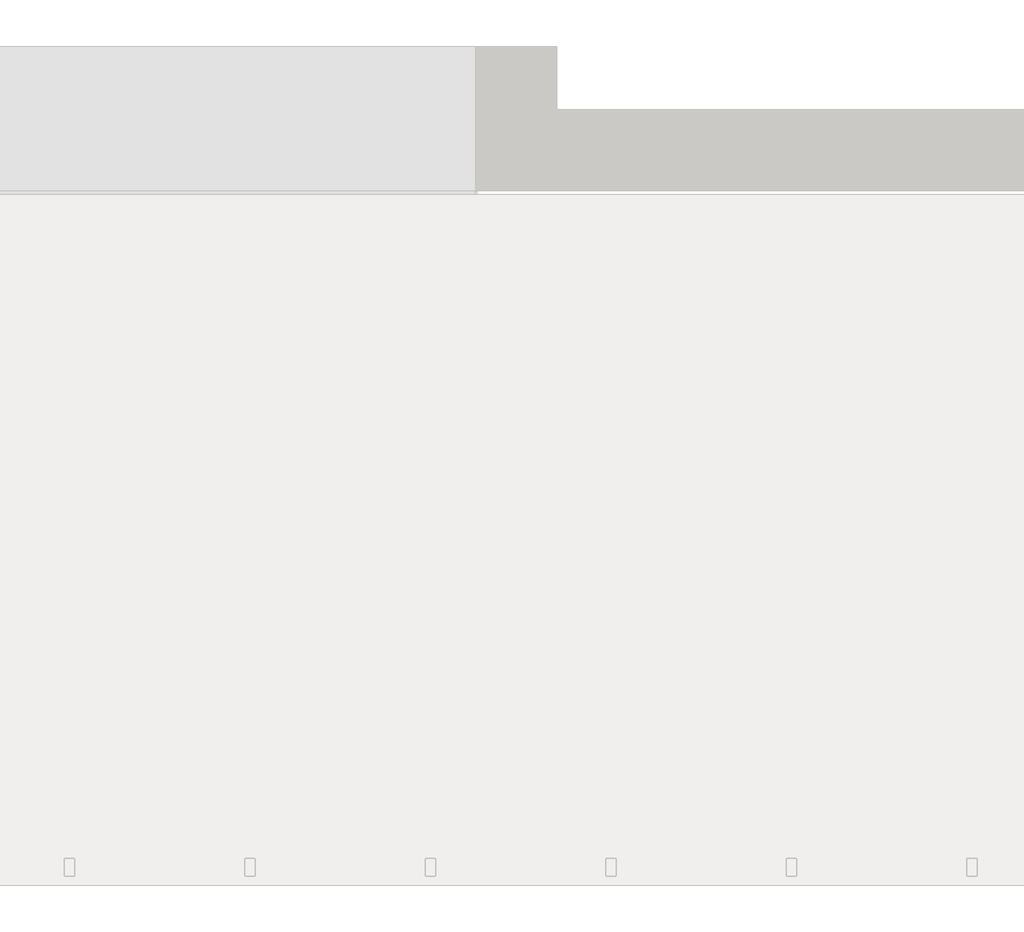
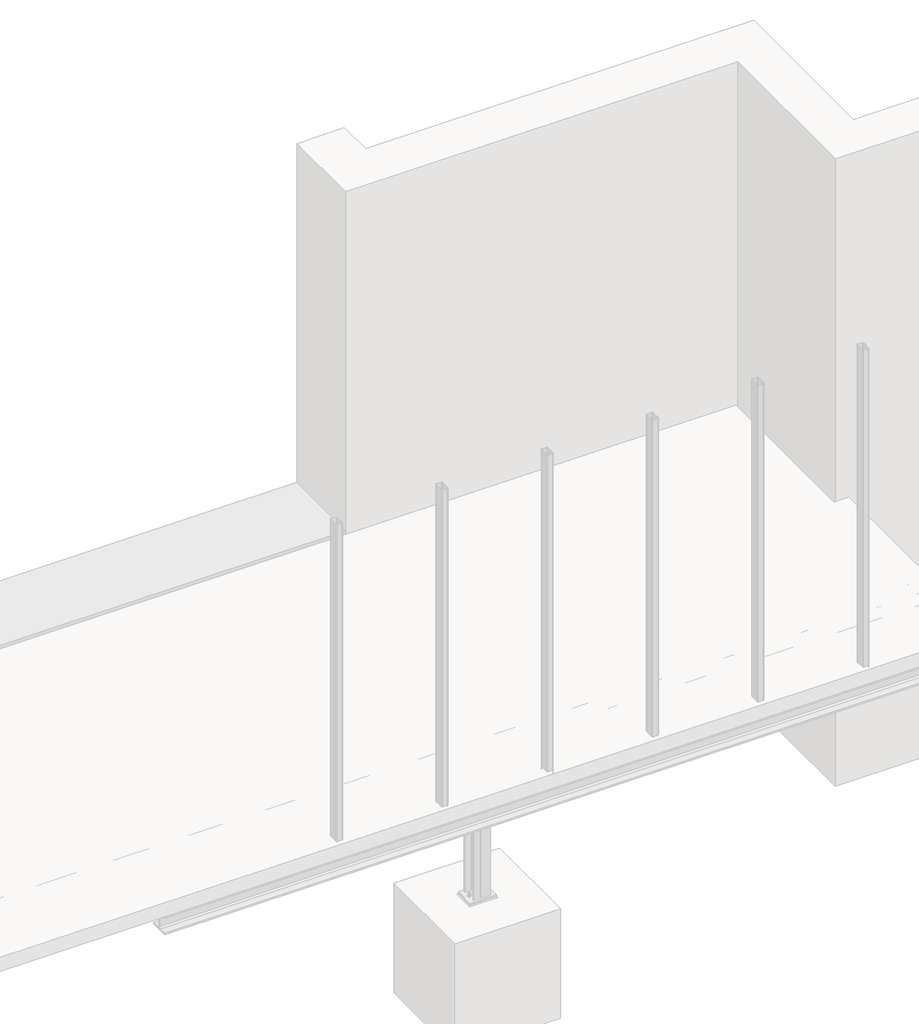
# One storey, part 31 of 36: 3 assemblies.
"""IFC4 building model written with IfcOpenShell, lengths in millimetres."""

import ifcopenshell
import ifcopenshell.guid

model = None  # the IFC model being written
_history = None  # IfcOwnerHistory: only IFC2X3 demands one
_inside = {}  # id of a spatial element -> (the spatial element, [elements in it])
_under = {}  # id of a project, library or spatial element -> (it, [spatial elements below it])
_declared = {}  # id of a project -> (the project, [libraries it declares])
_typed = {}  # id of a type object -> (the type object, [elements of that type])
_made_of = {}  # id of a material, layer set ... -> (it, [elements and type objects made of it])


def new_model(schema):
    """Start an empty IFC model of exactly this schema.

    Asked for "IFC4X3", IfcOpenShell would pick the latest addendum, in which some entities
    have other attributes; the version numbers below select the first issue.
    IFC2X3 requires an IfcOwnerHistory on every rooted entity: one is made here for all.
    """
    global model, _history
    if schema == "IFC4X3":
        model = ifcopenshell.file(schema_version=(4, 3, 0, 0))
    else:
        model = ifcopenshell.file(schema=schema)
    _inside.clear()
    _under.clear()
    _declared.clear()
    _typed.clear()
    _made_of.clear()
    _history = None
    if model.schema == "IFC2X3":
        org = make("IfcOrganization", Name="unknown")
        user = make(
            "IfcPersonAndOrganization",
            ThePerson=make("IfcPerson", FamilyName="unknown"),
            TheOrganization=org,
        )
        app = make(
            "IfcApplication",
            ApplicationDeveloper=org,
            Version="unknown",
            ApplicationFullName="unknown",
            ApplicationIdentifier="unknown",
        )
        _history = make(
            "IfcOwnerHistory",
            OwningUser=user,
            OwningApplication=app,
            ChangeAction="ADDED",
            CreationDate=0,
        )
    return model


def make(cls, **values):
    """One entity of the class cls with the attributes given. An attribute that is None is left unset."""
    return model.create_entity(
        cls, **{name: value for name, value in values.items() if value is not None}
    )


def rooted(cls, **values):
    """An entity with a GlobalId (a new one), such as an element, a storey or a relation."""
    return make(cls, GlobalId=ifcopenshell.guid.new(), OwnerHistory=_history, **values)


def si_unit(unit_type, name, prefix=None):
    """IfcSIUnit, for example si_unit("LENGTHUNIT", "METRE", prefix="MILLI")."""
    return make("IfcSIUnit", UnitType=unit_type, Prefix=prefix, Name=name)


def assignment(units):
    """IfcUnitAssignment: the units of a project."""
    return None if units is None else make("IfcUnitAssignment", Units=units)


def point(xyz):
    """IfcCartesianPoint."""
    return None if xyz is None else make("IfcCartesianPoint", Coordinates=xyz)


def direction(xyz):
    """IfcDirection."""
    return None if xyz is None else make("IfcDirection", DirectionRatios=xyz)


def frame(location, z_axis=None, x_axis=None):
    """IfcAxis2Placement3D, a coordinate frame: its origin and axes. An axis left out is left unset."""
    return make(
        "IfcAxis2Placement3D",
        Location=point(location),
        Axis=direction(z_axis),
        RefDirection=direction(x_axis),
    )


def frame_2d(location, x_axis=None):
    """IfcAxis2Placement2D, a coordinate frame in the plane: its origin and x axis."""
    return make(
        "IfcAxis2Placement2D", Location=point(location), RefDirection=direction(x_axis)
    )


def origin():
    """The frame at (0, 0, 0) with its axes left unset."""
    return frame((0.0, 0.0, 0.0))


def place(relative_to, where):
    """IfcLocalPlacement: puts the frame where relative to a parent placement (None: the world)."""
    return make(
        "IfcLocalPlacement", PlacementRelTo=relative_to, RelativePlacement=where
    )


def context(
    kind, dimensions, precision=None, world=None, true_north=None, identifier=None
):
    """IfcGeometricRepresentationContext, for example the 3D "Model" context."""
    return make(
        "IfcGeometricRepresentationContext",
        ContextIdentifier=identifier,
        ContextType=kind,
        CoordinateSpaceDimension=dimensions,
        Precision=precision,
        WorldCoordinateSystem=world,
        TrueNorth=true_north,
    )


def project(units=None, contexts=None):
    """IfcProject with its units and contexts."""
    return rooted(
        "IfcProject",
        Name="project",
        RepresentationContexts=contexts,
        UnitsInContext=assignment(units),
    )


def spatial(cls, under=None, at=None, **own):
    """A site, building, storey or space (cls), placed at a placement, below another one or the project."""
    s = rooted(cls, ObjectPlacement=at, **own)
    if under is not None:
        _under.setdefault(under.id(), (under, []))[1].append(s)
    return s


def polyline(points):
    """IfcPolyline through the points."""
    return make("IfcPolyline", Points=[point(p) for p in points])


def circle_curve(where, radius):
    """IfcCircle in the frame where."""
    return make("IfcCircle", Position=where, Radius=radius)


def trimmed(basis, trim1, trim2, sense, master):
    """IfcTrimmedCurve: the piece of a basis curve between two trims."""
    return make(
        "IfcTrimmedCurve",
        BasisCurve=basis,
        Trim1=trim1,
        Trim2=trim2,
        SenseAgreement=sense,
        MasterRepresentation=master,
    )


def segment(curve, same_sense, transition):
    """IfcCompositeCurveSegment."""
    return make(
        "IfcCompositeCurveSegment",
        Transition=transition,
        SameSense=same_sense,
        ParentCurve=curve,
    )


def composite_curve(segments, self_intersect=None):
    """IfcCompositeCurve: segments joined end to end."""
    return make("IfcCompositeCurve", Segments=segments, SelfIntersect=self_intersect)


def outline(outer, holes=None, kind="AREA"):
    """IfcArbitraryClosedProfileDef: a profile drawn as a closed curve; with holes, ...WithVoids."""
    if holes is None:
        return make("IfcArbitraryClosedProfileDef", ProfileType=kind, OuterCurve=outer)
    return make(
        "IfcArbitraryProfileDefWithVoids",
        ProfileType=kind,
        OuterCurve=outer,
        InnerCurves=holes,
    )


def extrude(swept, where, along, depth):
    """IfcExtrudedAreaSolid: the profile swept, set in the frame where, extruded along a direction by depth."""
    return make(
        "IfcExtrudedAreaSolid",
        SweptArea=swept,
        Position=where,
        ExtrudedDirection=direction(along),
        Depth=depth,
    )


def shape(context_of_items, identifier, shape_type, items):
    """IfcShapeRepresentation: the items that make up one representation, for example the "Body"."""
    return make(
        "IfcShapeRepresentation",
        ContextOfItems=context_of_items,
        RepresentationIdentifier=identifier,
        RepresentationType=shape_type,
        Items=items,
    )


def made_of(thing, what):
    """Note that an element or type object is made of a material, layer set ...; save() writes the relation."""
    if what is not None:
        _made_of.setdefault(what.id(), (what, []))[1].append(thing)
    return thing


def element(
    cls,
    number,
    at=None,
    inside=None,
    cuts=None,
    type_object=None,
    material=None,
    context=None,
    identifier="Body",
    shape_type=None,
    held_by="IfcProductDefinitionShape",
    body=None,
    shapes=None,
    **own,
):
    """One element of the class cls, such as IfcWall. Its Tag is "e" and its number.

    at: its placement. inside: the storey or other place that contains it. cuts: it is an
    opening in that element (IfcRelVoidsElement). A single representation is given by context,
    identifier, shape_type and body (its items); several are given by shapes. held_by: the class
    of the entity that holds the representations. save() writes the other relations.
    """
    e = rooted(cls, Tag="e%d" % number, ObjectPlacement=at, **own)
    if body is not None:
        shapes = [shape(context, identifier, shape_type, body)]
    if shapes is not None:
        e.Representation = make(held_by, Representations=shapes)
    if inside is not None:
        _inside.setdefault(inside.id(), (inside, []))[1].append(e)
    if cuts is not None:
        rooted(
            "IfcRelVoidsElement", RelatingBuildingElement=cuts, RelatedOpeningElement=e
        )
    if type_object is not None:
        _typed.setdefault(type_object.id(), (type_object, []))[1].append(e)
    return made_of(e, material)


def aggregate(whole, parts):
    """IfcRelAggregates: a whole, such as a stair, and the parts it consists of."""
    return rooted("IfcRelAggregates", RelatingObject=whole, RelatedObjects=parts)


def save(model, path):
    """Write the relations noted so far, then the file.

    IfcRelAggregates (storeys below a building ...), IfcRelContainedInSpatialStructure (elements
    in a storey), IfcRelDefinesByType, IfcRelAssociatesMaterial and IfcRelDeclares: one each for
    every whole, place, type object, material and project.
    """
    for whole, parts in _under.values():
        aggregate(whole, parts)
    for where, things in _inside.values():
        rooted(
            "IfcRelContainedInSpatialStructure",
            RelatedElements=things,
            RelatingStructure=where,
        )
    for kind, things in _typed.values():
        rooted("IfcRelDefinesByType", RelatedObjects=things, RelatingType=kind)
    for what, things in _made_of.values():
        rooted("IfcRelAssociatesMaterial", RelatedObjects=things, RelatingMaterial=what)
    for by, libraries in _declared.values():
        rooted("IfcRelDeclares", RelatingContext=by, RelatedDefinitions=libraries)
    model.write(path)


model = new_model("IFC4")

# Units and contexts
model_context = context("Model", 3, world=origin())
ifc_project = project(units=[si_unit("LENGTHUNIT", "METRE", prefix="MILLI")], contexts=[model_context])

# Site, building, storey
site = spatial("IfcSite", under=ifc_project)
building = spatial("IfcBuilding", under=site)
storey = spatial("IfcBuildingStorey", under=building, Name="Základy", Elevation=-1200.0)

# Assemblies
placement = place(None, origin())
element("IfcElementAssembly", 1, at=placement, inside=storey, context=model_context, shape_type="SweptSolid", body=[
    extrude(outline(composite_curve([segment(polyline([(12073.6, 60.0), (12026.4, 60.0)]), True, "CONTINUOUS"), segment(trimmed(circle_curve(frame_2d((12026.4, 66.4)), 6.4), [point((12026.4, 60.0))], [point((12020.0, 66.4))], False, "CARTESIAN"), True, "CONTINUOUS"), segment(polyline([(12020.0, 66.4), (12020.0, 153.6)]), True, "CONTINUOUS"), segment(trimmed(circle_curve(frame_2d((12026.4, 153.6)), 6.4), [point((12020.0, 153.6))], [point((12026.4, 160.0))], False, "CARTESIAN"), True, "CONTINUOUS"), segment(polyline([(12026.4, 160.0), (12073.6, 160.0)]), True, "CONTINUOUS"), segment(trimmed(circle_curve(frame_2d((12073.6, 153.6)), 6.4), [point((12073.6, 160.0))], [point((12080.0, 153.6))], False, "CARTESIAN"), True, "CONTINUOUS"), segment(polyline([(12080.0, 153.6), (12080.0, 66.4)]), True, "CONTINUOUS"), segment(trimmed(circle_curve(frame_2d((12073.6, 66.4)), 6.4), [point((12080.0, 66.4))], [point((12073.6, 60.0))], False, "CARTESIAN"), True, "CONTINUOUS")], self_intersect=False), holes=[composite_curve([segment(trimmed(circle_curve(frame_2d((12073.6, 66.4)), 3.2), [point((12073.6, 63.2))], [point((12076.8, 66.4))], True, "CARTESIAN"), True, "CONTINUOUS"), segment(polyline([(12076.8, 66.4), (12076.8, 153.6)]), True, "CONTINUOUS"), segment(trimmed(circle_curve(frame_2d((12073.6, 153.6)), 3.2), [point((12076.8, 153.6))], [point((12073.6, 156.8))], True, "CARTESIAN"), True, "CONTINUOUS"), segment(polyline([(12073.6, 156.8), (12026.4, 156.8)]), True, "CONTINUOUS"), segment(trimmed(circle_curve(frame_2d((12026.4, 153.6)), 3.2), [point((12026.4, 156.8))], [point((12023.2, 153.6))], True, "CARTESIAN"), True, "CONTINUOUS"), segment(polyline([(12023.2, 153.6), (12023.2, 66.4)]), True, "CONTINUOUS"), segment(trimmed(circle_curve(frame_2d((12026.4, 66.4)), 3.2), [point((12023.2, 66.4))], [point((12026.4, 63.2))], True, "CARTESIAN"), True, "CONTINUOUS"), segment(polyline([(12026.4, 63.2), (12073.6, 63.2)]), True, "CONTINUOUS")], self_intersect=False)]), frame((0.0, 0.0, -160.0), z_axis=(0.0, 0.0, 1.0), x_axis=(1.0, 0.0, 0.0)), (0.0, 0.0, 1.0), 3320.0),
])
element("IfcElementAssembly", 2, at=placement, inside=storey, context=model_context, shape_type="SweptSolid", body=[
    extrude(outline(composite_curve([segment(polyline([(13073.6, 60.0), (13026.4, 60.0)]), True, "CONTINUOUS"), segment(trimmed(circle_curve(frame_2d((13026.4, 66.4)), 6.4), [point((13026.4, 60.0))], [point((13020.0, 66.4))], False, "CARTESIAN"), True, "CONTINUOUS"), segment(polyline([(13020.0, 66.4), (13020.0, 153.6)]), True, "CONTINUOUS"), segment(trimmed(circle_curve(frame_2d((13026.4, 153.6)), 6.4), [point((13020.0, 153.6))], [point((13026.4, 160.0))], False, "CARTESIAN"), True, "CONTINUOUS"), segment(polyline([(13026.4, 160.0), (13073.6, 160.0)]), True, "CONTINUOUS"), segment(trimmed(circle_curve(frame_2d((13073.6, 153.6)), 6.4), [point((13073.6, 160.0))], [point((13080.0, 153.6))], False, "CARTESIAN"), True, "CONTINUOUS"), segment(polyline([(13080.0, 153.6), (13080.0, 66.4)]), True, "CONTINUOUS"), segment(trimmed(circle_curve(frame_2d((13073.6, 66.4)), 6.4), [point((13080.0, 66.4))], [point((13073.6, 60.0))], False, "CARTESIAN"), True, "CONTINUOUS")], self_intersect=False), holes=[composite_curve([segment(trimmed(circle_curve(frame_2d((13073.6, 66.4)), 3.2), [point((13073.6, 63.2))], [point((13076.8, 66.4))], True, "CARTESIAN"), True, "CONTINUOUS"), segment(polyline([(13076.8, 66.4), (13076.8, 153.6)]), True, "CONTINUOUS"), segment(trimmed(circle_curve(frame_2d((13073.6, 153.6)), 3.2), [point((13076.8, 153.6))], [point((13073.6, 156.8))], True, "CARTESIAN"), True, "CONTINUOUS"), segment(polyline([(13073.6, 156.8), (13026.4, 156.8)]), True, "CONTINUOUS"), segment(trimmed(circle_curve(frame_2d((13026.4, 153.6)), 3.2), [point((13026.4, 156.8))], [point((13023.2, 153.6))], True, "CARTESIAN"), True, "CONTINUOUS"), segment(polyline([(13023.2, 153.6), (13023.2, 66.4)]), True, "CONTINUOUS"), segment(trimmed(circle_curve(frame_2d((13026.4, 66.4)), 3.2), [point((13023.2, 66.4))], [point((13026.4, 63.2))], True, "CARTESIAN"), True, "CONTINUOUS"), segment(polyline([(13026.4, 63.2), (13073.6, 63.2)]), True, "CONTINUOUS")], self_intersect=False)]), frame((0.0, 0.0, -160.0), z_axis=(0.0, 0.0, 1.0), x_axis=(1.0, 0.0, 0.0)), (0.0, 0.0, 1.0), 3320.0),
])
element("IfcElementAssembly", 3, at=placement, inside=storey, context=model_context, shape_type="SweptSolid", body=[
    extrude(outline(composite_curve([segment(polyline([(-340.0, 12140.0), (-326.0, 12140.0), (-326.0, 12069.25)]), True, "CONTINUOUS"), segment(trimmed(circle_curve(frame_2d((-311.0, 12069.25)), 15.0), [point((-326.0, 12069.25))], [point((-311.0, 12054.25))], True, "CARTESIAN"), True, "CONTINUOUS"), segment(polyline([(-311.0, 12054.25), (-189.0, 12054.25)]), True, "CONTINUOUS"), segment(trimmed(circle_curve(frame_2d((-189.0, 12069.25)), 15.0), [point((-189.0, 12054.25))], [point((-174.0, 12069.25))], True, "CARTESIAN"), True, "CONTINUOUS"), segment(polyline([(-174.0, 12069.25), (-174.0, 12140.0), (-160.0, 12140.0), (-160.0, 11960.0), (-174.0, 11960.0), (-174.0, 12030.75)]), True, "CONTINUOUS"), segment(trimmed(circle_curve(frame_2d((-189.0, 12030.75)), 15.0), [point((-174.0, 12030.75))], [point((-189.0, 12045.75))], True, "CARTESIAN"), True, "CONTINUOUS"), segment(polyline([(-189.0, 12045.75), (-311.0, 12045.75)]), True, "CONTINUOUS"), segment(trimmed(circle_curve(frame_2d((-311.0, 12030.75)), 15.0), [point((-311.0, 12045.75))], [point((-326.0, 12030.75))], True, "CARTESIAN"), True, "CONTINUOUS"), segment(polyline([(-326.0, 12030.75), (-326.0, 11960.0), (-340.0, 11960.0), (-340.0, 12140.0)]), True, "CONTINUOUS")], self_intersect=False)), frame((0.0, 210.0, 0.0), z_axis=(0.0, 1.0, 0.0), x_axis=(0.0, 0.0, 1.0)), (0.0, 0.0, 1.0), 3557.0),
    extrude(outline(polyline([(11960.0, 3775.0), (12140.0, 3775.0), (12140.0, 3767.0), (11960.0, 3767.0), (11960.0, 3775.0)])), frame((0.0, 0.0, -316.0), z_axis=(0.0, 0.0, 1.0), x_axis=(1.0, 0.0, 0.0)), (0.0, 0.0, 1.0), 132.0),
    extrude(outline(polyline([(11950.0, 1200.0), (11950.0, 1320.0), (11960.0, 1320.0), (11960.0, 1200.0), (11950.0, 1200.0)])), frame((0.0, 0.0, -332.0), z_axis=(0.0, 0.0, 1.0), x_axis=(1.0, 0.0, 0.0)), (0.0, 0.0, 1.0), 164.0),
    extrude(outline(polyline([(12140.0, 1170.0), (12140.0, 1350.0), (12150.0, 1350.0), (12150.0, 1170.0), (12140.0, 1170.0)])), frame((0.0, 0.0, -332.0), z_axis=(0.0, 0.0, 1.0), x_axis=(1.0, 0.0, 0.0)), (0.0, 0.0, 1.0), 164.0),
    extrude(outline(composite_curve([segment(polyline([(-174.0, 12140.0), (-174.0, 12079.5)]), True, "CONTINUOUS"), segment(trimmed(circle_curve(frame_2d((-174.0, 12054.5)), 25.0), [point((-174.0, 12079.5))], [point((-199.0, 12054.5))], True, "CARTESIAN"), True, "CONTINUOUS"), segment(polyline([(-199.0, 12054.5), (-301.0, 12054.5)]), True, "CONTINUOUS"), segment(trimmed(circle_curve(frame_2d((-326.0, 12054.5)), 25.0), [point((-301.0, 12054.5))], [point((-326.0, 12079.5))], True, "CARTESIAN"), True, "CONTINUOUS"), segment(polyline([(-326.0, 12079.5), (-326.0, 12140.0), (-174.0, 12140.0)]), True, "CONTINUOUS")], self_intersect=False)), frame((0.0, 1256.0, 0.0), z_axis=(0.0, 1.0, 0.0), x_axis=(0.0, 0.0, 1.0)), (0.0, 0.0, 1.0), 8.0),
    extrude(outline(composite_curve([segment(polyline([(-174.0, 11960.0), (-326.0, 11960.0), (-326.0, 12020.5)]), True, "CONTINUOUS"), segment(trimmed(circle_curve(frame_2d((-326.0, 12045.5)), 25.0), [point((-326.0, 12020.5))], [point((-301.0, 12045.5))], True, "CARTESIAN"), True, "CONTINUOUS"), segment(polyline([(-301.0, 12045.5), (-199.0, 12045.5)]), True, "CONTINUOUS"), segment(trimmed(circle_curve(frame_2d((-174.0, 12045.5)), 25.0), [point((-199.0, 12045.5))], [point((-174.0, 12020.5))], True, "CARTESIAN"), True, "CONTINUOUS"), segment(polyline([(-174.0, 12020.5), (-174.0, 11960.0)]), True, "CONTINUOUS")], self_intersect=False)), frame((0.0, 1256.0, 0.0), z_axis=(0.0, 1.0, 0.0), x_axis=(0.0, 0.0, 1.0)), (0.0, 0.0, 1.0), 8.0),
    extrude(outline(polyline([(11960.0, 210.0), (12140.0, 210.0), (12140.0, 200.0), (11960.0, 200.0), (11960.0, 210.0)])), frame((0.0, 0.0, -332.0), z_axis=(0.0, 0.0, 1.0), x_axis=(1.0, 0.0, 0.0)), (0.0, 0.0, 1.0), 164.0),
    extrude(outline(composite_curve([segment(trimmed(circle_curve(frame_2d((1230.0, -225.0)), 6.5), [point((1230.0, -231.5))], [point((1230.0, -218.5))], False, "CARTESIAN"), True, "CONTINUOUS"), segment(trimmed(circle_curve(frame_2d((1230.0, -225.0)), 6.5), [point((1230.0, -218.5))], [point((1230.0, -231.5))], False, "CARTESIAN"), True, "CONTINUOUS")], self_intersect=False)), frame((11949.9, 0.0, 0.0), z_axis=(1.0, 0.0, 0.0), x_axis=(0.0, 1.0, 0.0)), (0.0, 0.0, 1.0), 10.0),
    extrude(outline(polyline([(1230.0, -235.3923048), (1221.0, -230.1961524), (1221.0, -219.8038476), (1230.0, -214.6076952), (1239.0, -219.8038476), (1239.0, -230.1961524), (1230.0, -235.3923048)])), frame((11962.5, 0.0, 0.0), z_axis=(1.0, 0.0, 0.0), x_axis=(0.0, 1.0, 0.0)), (0.0, 0.0, 1.0), 7.5),
    extrude(outline(composite_curve([segment(trimmed(circle_curve(frame_2d((1230.0, -225.0)), 6.0), [point((1230.0, -231.0))], [point((1230.0, -219.0))], False, "CARTESIAN"), True, "CONTINUOUS"), segment(trimmed(circle_curve(frame_2d((1230.0, -225.0)), 6.0), [point((1230.0, -219.0))], [point((1230.0, -231.0))], False, "CARTESIAN"), True, "CONTINUOUS")], self_intersect=False)), frame((11922.5, 0.0, 0.0), z_axis=(1.0, 0.0, 0.0), x_axis=(0.0, 1.0, 0.0)), (0.0, 0.0, 1.0), 40.0),
    extrude(outline(composite_curve([segment(trimmed(circle_curve(frame_2d((1230.0, -225.0)), 12.0), [point((1230.0, -237.0))], [point((1230.0, -213.0))], False, "CARTESIAN"), True, "CONTINUOUS"), segment(trimmed(circle_curve(frame_2d((1230.0, -225.0)), 12.0), [point((1230.0, -213.0))], [point((1230.0, -237.0))], False, "CARTESIAN"), True, "CONTINUOUS")], self_intersect=False)), frame((11960.0, 0.0, 0.0), z_axis=(1.0, 0.0, 0.0), x_axis=(0.0, 1.0, 0.0)), (0.0, 0.0, 1.0), 2.5),
    extrude(outline(composite_curve([segment(trimmed(circle_curve(frame_2d((1230.0, -225.0)), 12.0), [point((1230.0, -237.0))], [point((1230.0, -213.0))], False, "CARTESIAN"), True, "CONTINUOUS"), segment(trimmed(circle_curve(frame_2d((1230.0, -225.0)), 12.0), [point((1230.0, -213.0))], [point((1230.0, -237.0))], False, "CARTESIAN"), True, "CONTINUOUS")], self_intersect=False)), frame((11937.5, 0.0, 0.0), z_axis=(1.0, 0.0, 0.0), x_axis=(0.0, 1.0, 0.0)), (0.0, 0.0, 1.0), 2.5),
    extrude(outline(polyline([(1230.0, -235.9696551), (1220.5, -230.4848276), (1220.5, -219.5151724), (1230.0, -214.0303449), (1239.5, -219.5151724), (1239.5, -230.4848276), (1230.0, -235.9696551)])), frame((11927.5, 0.0, 0.0), z_axis=(1.0, 0.0, 0.0), x_axis=(0.0, 1.0, 0.0)), (0.0, 0.0, 1.0), 10.0),
    extrude(outline(composite_curve([segment(trimmed(circle_curve(frame_2d((1230.0, -225.0)), 6.5), [point((1230.0, -231.5))], [point((1230.0, -218.5))], False, "CARTESIAN"), True, "CONTINUOUS"), segment(trimmed(circle_curve(frame_2d((1230.0, -225.0)), 6.5), [point((1230.0, -218.5))], [point((1230.0, -231.5))], False, "CARTESIAN"), True, "CONTINUOUS")], self_intersect=False)), frame((11940.0, 0.0, 0.0), z_axis=(1.0, 0.0, 0.0), x_axis=(0.0, 1.0, 0.0)), (0.0, 0.0, 1.0), 10.1),
    extrude(outline(composite_curve([segment(trimmed(circle_curve(frame_2d((1230.0, -275.0)), 6.5), [point((1230.0, -281.5))], [point((1230.0, -268.5))], False, "CARTESIAN"), True, "CONTINUOUS"), segment(trimmed(circle_curve(frame_2d((1230.0, -275.0)), 6.5), [point((1230.0, -268.5))], [point((1230.0, -281.5))], False, "CARTESIAN"), True, "CONTINUOUS")], self_intersect=False)), frame((11949.9, 0.0, 0.0), z_axis=(1.0, 0.0, 0.0), x_axis=(0.0, 1.0, 0.0)), (0.0, 0.0, 1.0), 10.0),
    extrude(outline(polyline([(1230.0, -285.3923048), (1221.0, -280.1961524), (1221.0, -269.8038476), (1230.0, -264.6076952), (1239.0, -269.8038476), (1239.0, -280.1961524), (1230.0, -285.3923048)])), frame((11962.5, 0.0, 0.0), z_axis=(1.0, 0.0, 0.0), x_axis=(0.0, 1.0, 0.0)), (0.0, 0.0, 1.0), 7.5),
    extrude(outline(composite_curve([segment(trimmed(circle_curve(frame_2d((1230.0, -275.0)), 6.0), [point((1230.0, -281.0))], [point((1230.0, -269.0))], False, "CARTESIAN"), True, "CONTINUOUS"), segment(trimmed(circle_curve(frame_2d((1230.0, -275.0)), 6.0), [point((1230.0, -269.0))], [point((1230.0, -281.0))], False, "CARTESIAN"), True, "CONTINUOUS")], self_intersect=False)), frame((11922.5, 0.0, 0.0), z_axis=(1.0, 0.0, 0.0), x_axis=(0.0, 1.0, 0.0)), (0.0, 0.0, 1.0), 40.0),
    extrude(outline(composite_curve([segment(trimmed(circle_curve(frame_2d((1230.0, -275.0)), 12.0), [point((1230.0, -287.0))], [point((1230.0, -263.0))], False, "CARTESIAN"), True, "CONTINUOUS"), segment(trimmed(circle_curve(frame_2d((1230.0, -275.0)), 12.0), [point((1230.0, -263.0))], [point((1230.0, -287.0))], False, "CARTESIAN"), True, "CONTINUOUS")], self_intersect=False)), frame((11960.0, 0.0, 0.0), z_axis=(1.0, 0.0, 0.0), x_axis=(0.0, 1.0, 0.0)), (0.0, 0.0, 1.0), 2.5),
    extrude(outline(composite_curve([segment(trimmed(circle_curve(frame_2d((1230.0, -275.0)), 12.0), [point((1230.0, -287.0))], [point((1230.0, -263.0))], False, "CARTESIAN"), True, "CONTINUOUS"), segment(trimmed(circle_curve(frame_2d((1230.0, -275.0)), 12.0), [point((1230.0, -263.0))], [point((1230.0, -287.0))], False, "CARTESIAN"), True, "CONTINUOUS")], self_intersect=False)), frame((11937.5, 0.0, 0.0), z_axis=(1.0, 0.0, 0.0), x_axis=(0.0, 1.0, 0.0)), (0.0, 0.0, 1.0), 2.5),
    extrude(outline(polyline([(1230.0, -285.9696551), (1220.5, -280.4848276), (1220.5, -269.5151724), (1230.0, -264.0303449), (1239.5, -269.5151724), (1239.5, -280.4848276), (1230.0, -285.9696551)])), frame((11927.5, 0.0, 0.0), z_axis=(1.0, 0.0, 0.0), x_axis=(0.0, 1.0, 0.0)), (0.0, 0.0, 1.0), 10.0),
    extrude(outline(composite_curve([segment(trimmed(circle_curve(frame_2d((1230.0, -275.0)), 6.5), [point((1230.0, -281.5))], [point((1230.0, -268.5))], False, "CARTESIAN"), True, "CONTINUOUS"), segment(trimmed(circle_curve(frame_2d((1230.0, -275.0)), 6.5), [point((1230.0, -268.5))], [point((1230.0, -281.5))], False, "CARTESIAN"), True, "CONTINUOUS")], self_intersect=False)), frame((11940.0, 0.0, 0.0), z_axis=(1.0, 0.0, 0.0), x_axis=(0.0, 1.0, 0.0)), (0.0, 0.0, 1.0), 10.1),
    extrude(outline(composite_curve([segment(trimmed(circle_curve(frame_2d((1290.0, -225.0)), 6.5), [point((1290.0, -231.5))], [point((1290.0, -218.5))], False, "CARTESIAN"), True, "CONTINUOUS"), segment(trimmed(circle_curve(frame_2d((1290.0, -225.0)), 6.5), [point((1290.0, -218.5))], [point((1290.0, -231.5))], False, "CARTESIAN"), True, "CONTINUOUS")], self_intersect=False)), frame((11949.9, 0.0, 0.0), z_axis=(1.0, 0.0, 0.0), x_axis=(0.0, 1.0, 0.0)), (0.0, 0.0, 1.0), 10.0),
    extrude(outline(polyline([(1290.0, -235.3923048), (1281.0, -230.1961524), (1281.0, -219.8038476), (1290.0, -214.6076952), (1299.0, -219.8038476), (1299.0, -230.1961524), (1290.0, -235.3923048)])), frame((11962.5, 0.0, 0.0), z_axis=(1.0, 0.0, 0.0), x_axis=(0.0, 1.0, 0.0)), (0.0, 0.0, 1.0), 7.5),
    extrude(outline(composite_curve([segment(trimmed(circle_curve(frame_2d((1290.0, -225.0)), 6.0), [point((1290.0, -231.0))], [point((1290.0, -219.0))], False, "CARTESIAN"), True, "CONTINUOUS"), segment(trimmed(circle_curve(frame_2d((1290.0, -225.0)), 6.0), [point((1290.0, -219.0))], [point((1290.0, -231.0))], False, "CARTESIAN"), True, "CONTINUOUS")], self_intersect=False)), frame((11922.5, 0.0, 0.0), z_axis=(1.0, 0.0, 0.0), x_axis=(0.0, 1.0, 0.0)), (0.0, 0.0, 1.0), 40.0),
    extrude(outline(composite_curve([segment(trimmed(circle_curve(frame_2d((1290.0, -225.0)), 12.0), [point((1290.0, -237.0))], [point((1290.0, -213.0))], False, "CARTESIAN"), True, "CONTINUOUS"), segment(trimmed(circle_curve(frame_2d((1290.0, -225.0)), 12.0), [point((1290.0, -213.0))], [point((1290.0, -237.0))], False, "CARTESIAN"), True, "CONTINUOUS")], self_intersect=False)), frame((11960.0, 0.0, 0.0), z_axis=(1.0, 0.0, 0.0), x_axis=(0.0, 1.0, 0.0)), (0.0, 0.0, 1.0), 2.5),
    extrude(outline(composite_curve([segment(trimmed(circle_curve(frame_2d((1290.0, -225.0)), 12.0), [point((1290.0, -237.0))], [point((1290.0, -213.0))], False, "CARTESIAN"), True, "CONTINUOUS"), segment(trimmed(circle_curve(frame_2d((1290.0, -225.0)), 12.0), [point((1290.0, -213.0))], [point((1290.0, -237.0))], False, "CARTESIAN"), True, "CONTINUOUS")], self_intersect=False)), frame((11937.5, 0.0, 0.0), z_axis=(1.0, 0.0, 0.0), x_axis=(0.0, 1.0, 0.0)), (0.0, 0.0, 1.0), 2.5),
    extrude(outline(polyline([(1290.0, -235.9696551), (1280.5, -230.4848276), (1280.5, -219.5151724), (1290.0, -214.0303449), (1299.5, -219.5151724), (1299.5, -230.4848276), (1290.0, -235.9696551)])), frame((11927.5, 0.0, 0.0), z_axis=(1.0, 0.0, 0.0), x_axis=(0.0, 1.0, 0.0)), (0.0, 0.0, 1.0), 10.0),
    extrude(outline(composite_curve([segment(trimmed(circle_curve(frame_2d((1290.0, -225.0)), 6.5), [point((1290.0, -231.5))], [point((1290.0, -218.5))], False, "CARTESIAN"), True, "CONTINUOUS"), segment(trimmed(circle_curve(frame_2d((1290.0, -225.0)), 6.5), [point((1290.0, -218.5))], [point((1290.0, -231.5))], False, "CARTESIAN"), True, "CONTINUOUS")], self_intersect=False)), frame((11940.0, 0.0, 0.0), z_axis=(1.0, 0.0, 0.0), x_axis=(0.0, 1.0, 0.0)), (0.0, 0.0, 1.0), 10.1),
    extrude(outline(composite_curve([segment(trimmed(circle_curve(frame_2d((1290.0, -275.0)), 6.5), [point((1290.0, -281.5))], [point((1290.0, -268.5))], False, "CARTESIAN"), True, "CONTINUOUS"), segment(trimmed(circle_curve(frame_2d((1290.0, -275.0)), 6.5), [point((1290.0, -268.5))], [point((1290.0, -281.5))], False, "CARTESIAN"), True, "CONTINUOUS")], self_intersect=False)), frame((11949.9, 0.0, 0.0), z_axis=(1.0, 0.0, 0.0), x_axis=(0.0, 1.0, 0.0)), (0.0, 0.0, 1.0), 10.0),
    extrude(outline(polyline([(1290.0, -285.3923048), (1281.0, -280.1961524), (1281.0, -269.8038476), (1290.0, -264.6076952), (1299.0, -269.8038476), (1299.0, -280.1961524), (1290.0, -285.3923048)])), frame((11962.5, 0.0, 0.0), z_axis=(1.0, 0.0, 0.0), x_axis=(0.0, 1.0, 0.0)), (0.0, 0.0, 1.0), 7.5),
    extrude(outline(composite_curve([segment(trimmed(circle_curve(frame_2d((1290.0, -275.0)), 6.0), [point((1290.0, -281.0))], [point((1290.0, -269.0))], False, "CARTESIAN"), True, "CONTINUOUS"), segment(trimmed(circle_curve(frame_2d((1290.0, -275.0)), 6.0), [point((1290.0, -269.0))], [point((1290.0, -281.0))], False, "CARTESIAN"), True, "CONTINUOUS")], self_intersect=False)), frame((11922.5, 0.0, 0.0), z_axis=(1.0, 0.0, 0.0), x_axis=(0.0, 1.0, 0.0)), (0.0, 0.0, 1.0), 40.0),
    extrude(outline(composite_curve([segment(trimmed(circle_curve(frame_2d((1290.0, -275.0)), 12.0), [point((1290.0, -287.0))], [point((1290.0, -263.0))], False, "CARTESIAN"), True, "CONTINUOUS"), segment(trimmed(circle_curve(frame_2d((1290.0, -275.0)), 12.0), [point((1290.0, -263.0))], [point((1290.0, -287.0))], False, "CARTESIAN"), True, "CONTINUOUS")], self_intersect=False)), frame((11960.0, 0.0, 0.0), z_axis=(1.0, 0.0, 0.0), x_axis=(0.0, 1.0, 0.0)), (0.0, 0.0, 1.0), 2.5),
    extrude(outline(composite_curve([segment(trimmed(circle_curve(frame_2d((1290.0, -275.0)), 12.0), [point((1290.0, -287.0))], [point((1290.0, -263.0))], False, "CARTESIAN"), True, "CONTINUOUS"), segment(trimmed(circle_curve(frame_2d((1290.0, -275.0)), 12.0), [point((1290.0, -263.0))], [point((1290.0, -287.0))], False, "CARTESIAN"), True, "CONTINUOUS")], self_intersect=False)), frame((11937.5, 0.0, 0.0), z_axis=(1.0, 0.0, 0.0), x_axis=(0.0, 1.0, 0.0)), (0.0, 0.0, 1.0), 2.5),
    extrude(outline(polyline([(1290.0, -285.9696551), (1280.5, -280.4848276), (1280.5, -269.5151724), (1290.0, -264.0303449), (1299.5, -269.5151724), (1299.5, -280.4848276), (1290.0, -285.9696551)])), frame((11927.5, 0.0, 0.0), z_axis=(1.0, 0.0, 0.0), x_axis=(0.0, 1.0, 0.0)), (0.0, 0.0, 1.0), 10.0),
    extrude(outline(composite_curve([segment(trimmed(circle_curve(frame_2d((1290.0, -275.0)), 6.5), [point((1290.0, -281.5))], [point((1290.0, -268.5))], False, "CARTESIAN"), True, "CONTINUOUS"), segment(trimmed(circle_curve(frame_2d((1290.0, -275.0)), 6.5), [point((1290.0, -268.5))], [point((1290.0, -281.5))], False, "CARTESIAN"), True, "CONTINUOUS")], self_intersect=False)), frame((11940.0, 0.0, 0.0), z_axis=(1.0, 0.0, 0.0), x_axis=(0.0, 1.0, 0.0)), (0.0, 0.0, 1.0), 10.1),
    extrude(outline(composite_curve([segment(trimmed(circle_curve(frame_2d((1305.0, -210.0)), 8.5), [point((1305.0, -218.5))], [point((1305.0, -201.5))], False, "CARTESIAN"), True, "CONTINUOUS"), segment(trimmed(circle_curve(frame_2d((1305.0, -210.0)), 8.5), [point((1305.0, -201.5))], [point((1305.0, -218.5))], False, "CARTESIAN"), True, "CONTINUOUS")], self_intersect=False)), frame((12140.1, 0.0, 0.0), z_axis=(1.0, 0.0, 0.0), x_axis=(0.0, 1.0, 0.0)), (0.0, 0.0, 1.0), 10.0),
    extrude(outline(polyline([(1305.0, -223.8564065), (1293.0, -216.9282032), (1293.0, -203.0717968), (1305.0, -196.1435935), (1317.0, -203.0717968), (1317.0, -216.9282032), (1305.0, -223.8564065)])), frame((12127.0, 0.0, 0.0), z_axis=(1.0, 0.0, 0.0), x_axis=(0.0, 1.0, 0.0)), (0.0, 0.0, 1.0), 10.0),
    extrude(outline(composite_curve([segment(trimmed(circle_curve(frame_2d((1305.0, -210.0)), 8.0), [point((1305.0, -218.0))], [point((1305.0, -202.0))], False, "CARTESIAN"), True, "CONTINUOUS"), segment(trimmed(circle_curve(frame_2d((1305.0, -210.0)), 8.0), [point((1305.0, -202.0))], [point((1305.0, -218.0))], False, "CARTESIAN"), True, "CONTINUOUS")], self_intersect=False)), frame((12137.0, 0.0, 0.0), z_axis=(1.0, 0.0, 0.0), x_axis=(0.0, 1.0, 0.0)), (0.0, 0.0, 1.0), 45.0),
    extrude(outline(composite_curve([segment(trimmed(circle_curve(frame_2d((1305.0, -210.0)), 15.0), [point((1305.0, -225.0))], [point((1305.0, -195.0))], False, "CARTESIAN"), True, "CONTINUOUS"), segment(trimmed(circle_curve(frame_2d((1305.0, -210.0)), 15.0), [point((1305.0, -195.0))], [point((1305.0, -225.0))], False, "CARTESIAN"), True, "CONTINUOUS")], self_intersect=False)), frame((12137.0, 0.0, 0.0), z_axis=(1.0, 0.0, 0.0), x_axis=(0.0, 1.0, 0.0)), (0.0, 0.0, 1.0), 3.0),
    extrude(outline(composite_curve([segment(trimmed(circle_curve(frame_2d((1305.0, -210.0)), 15.0), [point((1305.0, -225.0))], [point((1305.0, -195.0))], False, "CARTESIAN"), True, "CONTINUOUS"), segment(trimmed(circle_curve(frame_2d((1305.0, -210.0)), 15.0), [point((1305.0, -195.0))], [point((1305.0, -225.0))], False, "CARTESIAN"), True, "CONTINUOUS")], self_intersect=False)), frame((12160.0, 0.0, 0.0), z_axis=(1.0, 0.0, 0.0), x_axis=(0.0, 1.0, 0.0)), (0.0, 0.0, 1.0), 3.0),
    extrude(outline(polyline([(1305.0, -225.4441197), (1291.625, -217.7220599), (1291.625, -202.2779401), (1305.0, -194.5558803), (1318.375, -202.2779401), (1318.375, -217.7220599), (1305.0, -225.4441197)])), frame((12163.0, 0.0, 0.0), z_axis=(1.0, 0.0, 0.0), x_axis=(0.0, 1.0, 0.0)), (0.0, 0.0, 1.0), 13.0),
    extrude(outline(composite_curve([segment(trimmed(circle_curve(frame_2d((1305.0, -210.0)), 8.5), [point((1305.0, -218.5))], [point((1305.0, -201.5))], False, "CARTESIAN"), True, "CONTINUOUS"), segment(trimmed(circle_curve(frame_2d((1305.0, -210.0)), 8.5), [point((1305.0, -201.5))], [point((1305.0, -218.5))], False, "CARTESIAN"), True, "CONTINUOUS")], self_intersect=False)), frame((12149.9, 0.0, 0.0), z_axis=(1.0, 0.0, 0.0), x_axis=(0.0, 1.0, 0.0)), (0.0, 0.0, 1.0), 10.1),
    extrude(outline(composite_curve([segment(trimmed(circle_curve(frame_2d((1305.0, -290.0)), 8.5), [point((1305.0, -298.5))], [point((1305.0, -281.5))], False, "CARTESIAN"), True, "CONTINUOUS"), segment(trimmed(circle_curve(frame_2d((1305.0, -290.0)), 8.5), [point((1305.0, -281.5))], [point((1305.0, -298.5))], False, "CARTESIAN"), True, "CONTINUOUS")], self_intersect=False)), frame((12140.1, 0.0, 0.0), z_axis=(1.0, 0.0, 0.0), x_axis=(0.0, 1.0, 0.0)), (0.0, 0.0, 1.0), 10.0),
    extrude(outline(polyline([(1305.0, -303.8564065), (1293.0, -296.9282032), (1293.0, -283.0717968), (1305.0, -276.1435935), (1317.0, -283.0717968), (1317.0, -296.9282032), (1305.0, -303.8564065)])), frame((12127.0, 0.0, 0.0), z_axis=(1.0, 0.0, 0.0), x_axis=(0.0, 1.0, 0.0)), (0.0, 0.0, 1.0), 10.0),
    extrude(outline(composite_curve([segment(trimmed(circle_curve(frame_2d((1305.0, -290.0)), 8.0), [point((1305.0, -298.0))], [point((1305.0, -282.0))], False, "CARTESIAN"), True, "CONTINUOUS"), segment(trimmed(circle_curve(frame_2d((1305.0, -290.0)), 8.0), [point((1305.0, -282.0))], [point((1305.0, -298.0))], False, "CARTESIAN"), True, "CONTINUOUS")], self_intersect=False)), frame((12137.0, 0.0, 0.0), z_axis=(1.0, 0.0, 0.0), x_axis=(0.0, 1.0, 0.0)), (0.0, 0.0, 1.0), 45.0),
    extrude(outline(composite_curve([segment(trimmed(circle_curve(frame_2d((1305.0, -290.0)), 15.0), [point((1305.0, -305.0))], [point((1305.0, -275.0))], False, "CARTESIAN"), True, "CONTINUOUS"), segment(trimmed(circle_curve(frame_2d((1305.0, -290.0)), 15.0), [point((1305.0, -275.0))], [point((1305.0, -305.0))], False, "CARTESIAN"), True, "CONTINUOUS")], self_intersect=False)), frame((12137.0, 0.0, 0.0), z_axis=(1.0, 0.0, 0.0), x_axis=(0.0, 1.0, 0.0)), (0.0, 0.0, 1.0), 3.0),
    extrude(outline(composite_curve([segment(trimmed(circle_curve(frame_2d((1305.0, -290.0)), 15.0), [point((1305.0, -305.0))], [point((1305.0, -275.0))], False, "CARTESIAN"), True, "CONTINUOUS"), segment(trimmed(circle_curve(frame_2d((1305.0, -290.0)), 15.0), [point((1305.0, -275.0))], [point((1305.0, -305.0))], False, "CARTESIAN"), True, "CONTINUOUS")], self_intersect=False)), frame((12160.0, 0.0, 0.0), z_axis=(1.0, 0.0, 0.0), x_axis=(0.0, 1.0, 0.0)), (0.0, 0.0, 1.0), 3.0),
    extrude(outline(polyline([(1305.0, -305.4441197), (1291.625, -297.7220599), (1291.625, -282.2779401), (1305.0, -274.5558803), (1318.375, -282.2779401), (1318.375, -297.7220599), (1305.0, -305.4441197)])), frame((12163.0, 0.0, 0.0), z_axis=(1.0, 0.0, 0.0), x_axis=(0.0, 1.0, 0.0)), (0.0, 0.0, 1.0), 13.0),
    extrude(outline(composite_curve([segment(trimmed(circle_curve(frame_2d((1305.0, -290.0)), 8.5), [point((1305.0, -298.5))], [point((1305.0, -281.5))], False, "CARTESIAN"), True, "CONTINUOUS"), segment(trimmed(circle_curve(frame_2d((1305.0, -290.0)), 8.5), [point((1305.0, -281.5))], [point((1305.0, -298.5))], False, "CARTESIAN"), True, "CONTINUOUS")], self_intersect=False)), frame((12149.9, 0.0, 0.0), z_axis=(1.0, 0.0, 0.0), x_axis=(0.0, 1.0, 0.0)), (0.0, 0.0, 1.0), 10.1),
    extrude(outline(composite_curve([segment(trimmed(circle_curve(frame_2d((1215.0, -210.0)), 8.5), [point((1215.0, -218.5))], [point((1215.0, -201.5))], False, "CARTESIAN"), True, "CONTINUOUS"), segment(trimmed(circle_curve(frame_2d((1215.0, -210.0)), 8.5), [point((1215.0, -201.5))], [point((1215.0, -218.5))], False, "CARTESIAN"), True, "CONTINUOUS")], self_intersect=False)), frame((12140.1, 0.0, 0.0), z_axis=(1.0, 0.0, 0.0), x_axis=(0.0, 1.0, 0.0)), (0.0, 0.0, 1.0), 10.0),
    extrude(outline(polyline([(1215.0, -223.8564065), (1203.0, -216.9282032), (1203.0, -203.0717968), (1215.0, -196.1435935), (1227.0, -203.0717968), (1227.0, -216.9282032), (1215.0, -223.8564065)])), frame((12127.0, 0.0, 0.0), z_axis=(1.0, 0.0, 0.0), x_axis=(0.0, 1.0, 0.0)), (0.0, 0.0, 1.0), 10.0),
    extrude(outline(composite_curve([segment(trimmed(circle_curve(frame_2d((1215.0, -210.0)), 8.0), [point((1215.0, -218.0))], [point((1215.0, -202.0))], False, "CARTESIAN"), True, "CONTINUOUS"), segment(trimmed(circle_curve(frame_2d((1215.0, -210.0)), 8.0), [point((1215.0, -202.0))], [point((1215.0, -218.0))], False, "CARTESIAN"), True, "CONTINUOUS")], self_intersect=False)), frame((12137.0, 0.0, 0.0), z_axis=(1.0, 0.0, 0.0), x_axis=(0.0, 1.0, 0.0)), (0.0, 0.0, 1.0), 45.0),
    extrude(outline(composite_curve([segment(trimmed(circle_curve(frame_2d((1215.0, -210.0)), 15.0), [point((1215.0, -225.0))], [point((1215.0, -195.0))], False, "CARTESIAN"), True, "CONTINUOUS"), segment(trimmed(circle_curve(frame_2d((1215.0, -210.0)), 15.0), [point((1215.0, -195.0))], [point((1215.0, -225.0))], False, "CARTESIAN"), True, "CONTINUOUS")], self_intersect=False)), frame((12137.0, 0.0, 0.0), z_axis=(1.0, 0.0, 0.0), x_axis=(0.0, 1.0, 0.0)), (0.0, 0.0, 1.0), 3.0),
    extrude(outline(composite_curve([segment(trimmed(circle_curve(frame_2d((1215.0, -210.0)), 15.0), [point((1215.0, -225.0))], [point((1215.0, -195.0))], False, "CARTESIAN"), True, "CONTINUOUS"), segment(trimmed(circle_curve(frame_2d((1215.0, -210.0)), 15.0), [point((1215.0, -195.0))], [point((1215.0, -225.0))], False, "CARTESIAN"), True, "CONTINUOUS")], self_intersect=False)), frame((12160.0, 0.0, 0.0), z_axis=(1.0, 0.0, 0.0), x_axis=(0.0, 1.0, 0.0)), (0.0, 0.0, 1.0), 3.0),
    extrude(outline(polyline([(1215.0, -225.4441197), (1201.625, -217.7220599), (1201.625, -202.2779401), (1215.0, -194.5558803), (1228.375, -202.2779401), (1228.375, -217.7220599), (1215.0, -225.4441197)])), frame((12163.0, 0.0, 0.0), z_axis=(1.0, 0.0, 0.0), x_axis=(0.0, 1.0, 0.0)), (0.0, 0.0, 1.0), 13.0),
    extrude(outline(composite_curve([segment(trimmed(circle_curve(frame_2d((1215.0, -210.0)), 8.5), [point((1215.0, -218.5))], [point((1215.0, -201.5))], False, "CARTESIAN"), True, "CONTINUOUS"), segment(trimmed(circle_curve(frame_2d((1215.0, -210.0)), 8.5), [point((1215.0, -201.5))], [point((1215.0, -218.5))], False, "CARTESIAN"), True, "CONTINUOUS")], self_intersect=False)), frame((12149.9, 0.0, 0.0), z_axis=(1.0, 0.0, 0.0), x_axis=(0.0, 1.0, 0.0)), (0.0, 0.0, 1.0), 10.1),
    extrude(outline(composite_curve([segment(trimmed(circle_curve(frame_2d((1215.0, -290.0)), 8.5), [point((1215.0, -298.5))], [point((1215.0, -281.5))], False, "CARTESIAN"), True, "CONTINUOUS"), segment(trimmed(circle_curve(frame_2d((1215.0, -290.0)), 8.5), [point((1215.0, -281.5))], [point((1215.0, -298.5))], False, "CARTESIAN"), True, "CONTINUOUS")], self_intersect=False)), frame((12140.1, 0.0, 0.0), z_axis=(1.0, 0.0, 0.0), x_axis=(0.0, 1.0, 0.0)), (0.0, 0.0, 1.0), 10.0),
    extrude(outline(polyline([(1215.0, -303.8564065), (1203.0, -296.9282032), (1203.0, -283.0717968), (1215.0, -276.1435935), (1227.0, -283.0717968), (1227.0, -296.9282032), (1215.0, -303.8564065)])), frame((12127.0, 0.0, 0.0), z_axis=(1.0, 0.0, 0.0), x_axis=(0.0, 1.0, 0.0)), (0.0, 0.0, 1.0), 10.0),
    extrude(outline(composite_curve([segment(trimmed(circle_curve(frame_2d((1215.0, -290.0)), 8.0), [point((1215.0, -298.0))], [point((1215.0, -282.0))], False, "CARTESIAN"), True, "CONTINUOUS"), segment(trimmed(circle_curve(frame_2d((1215.0, -290.0)), 8.0), [point((1215.0, -282.0))], [point((1215.0, -298.0))], False, "CARTESIAN"), True, "CONTINUOUS")], self_intersect=False)), frame((12137.0, 0.0, 0.0), z_axis=(1.0, 0.0, 0.0), x_axis=(0.0, 1.0, 0.0)), (0.0, 0.0, 1.0), 45.0),
    extrude(outline(composite_curve([segment(trimmed(circle_curve(frame_2d((1215.0, -290.0)), 15.0), [point((1215.0, -305.0))], [point((1215.0, -275.0))], False, "CARTESIAN"), True, "CONTINUOUS"), segment(trimmed(circle_curve(frame_2d((1215.0, -290.0)), 15.0), [point((1215.0, -275.0))], [point((1215.0, -305.0))], False, "CARTESIAN"), True, "CONTINUOUS")], self_intersect=False)), frame((12137.0, 0.0, 0.0), z_axis=(1.0, 0.0, 0.0), x_axis=(0.0, 1.0, 0.0)), (0.0, 0.0, 1.0), 3.0),
    extrude(outline(composite_curve([segment(trimmed(circle_curve(frame_2d((1215.0, -290.0)), 15.0), [point((1215.0, -305.0))], [point((1215.0, -275.0))], False, "CARTESIAN"), True, "CONTINUOUS"), segment(trimmed(circle_curve(frame_2d((1215.0, -290.0)), 15.0), [point((1215.0, -275.0))], [point((1215.0, -305.0))], False, "CARTESIAN"), True, "CONTINUOUS")], self_intersect=False)), frame((12160.0, 0.0, 0.0), z_axis=(1.0, 0.0, 0.0), x_axis=(0.0, 1.0, 0.0)), (0.0, 0.0, 1.0), 3.0),
    extrude(outline(polyline([(1215.0, -305.4441197), (1201.625, -297.7220599), (1201.625, -282.2779401), (1215.0, -274.5558803), (1228.375, -282.2779401), (1228.375, -297.7220599), (1215.0, -305.4441197)])), frame((12163.0, 0.0, 0.0), z_axis=(1.0, 0.0, 0.0), x_axis=(0.0, 1.0, 0.0)), (0.0, 0.0, 1.0), 13.0),
    extrude(outline(composite_curve([segment(trimmed(circle_curve(frame_2d((1215.0, -290.0)), 8.5), [point((1215.0, -298.5))], [point((1215.0, -281.5))], False, "CARTESIAN"), True, "CONTINUOUS"), segment(trimmed(circle_curve(frame_2d((1215.0, -290.0)), 8.5), [point((1215.0, -281.5))], [point((1215.0, -298.5))], False, "CARTESIAN"), True, "CONTINUOUS")], self_intersect=False)), frame((12149.9, 0.0, 0.0), z_axis=(1.0, 0.0, 0.0), x_axis=(0.0, 1.0, 0.0)), (0.0, 0.0, 1.0), 10.1),
])

save(model, "model.ifc")
